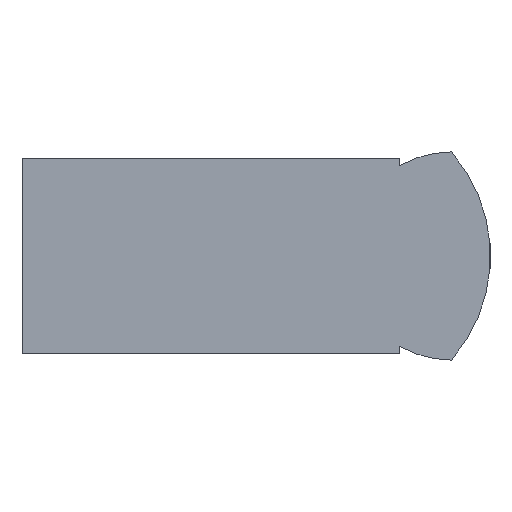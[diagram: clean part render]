
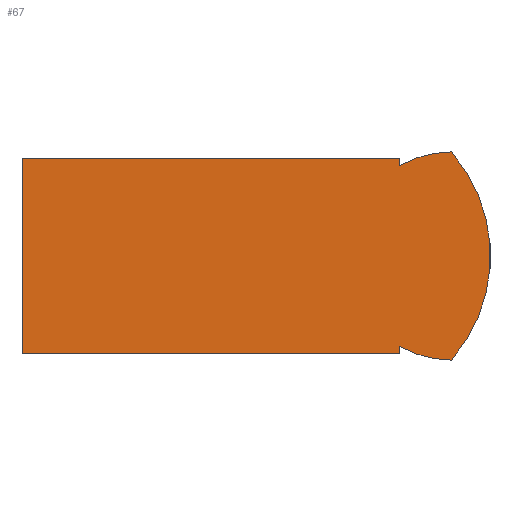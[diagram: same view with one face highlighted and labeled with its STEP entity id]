
A CAD part, left-side view. The second image highlights one B-rep face of the part: STEP entity #67.
In plain terms, the highlighted planar face has unit normal (-1, 0, 0).
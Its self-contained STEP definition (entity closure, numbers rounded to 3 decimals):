
#67 = ADVANCED_FACE( '', ( #140 ), #141, .F. );
#140 = FACE_OUTER_BOUND( '', #215, .T. );
#141 = PLANE( '', #216 );
#215 = EDGE_LOOP( '', ( #344, #345, #346, #347, #348, #349, #350, #351 ) );
#216 = AXIS2_PLACEMENT_3D( '', #352, #353, #354 );
#344 = ORIENTED_EDGE( '', *, *, #443, .F. );
#345 = ORIENTED_EDGE( '', *, *, #474, .T. );
#346 = ORIENTED_EDGE( '', *, *, #475, .T. );
#347 = ORIENTED_EDGE( '', *, *, #471, .F. );
#348 = ORIENTED_EDGE( '', *, *, #437, .F. );
#349 = ORIENTED_EDGE( '', *, *, #450, .T. );
#350 = ORIENTED_EDGE( '', *, *, #439, .F. );
#351 = ORIENTED_EDGE( '', *, *, #424, .F. );
#352 = CARTESIAN_POINT( '', ( -6., -28.416, 0. ) );
#353 = DIRECTION( '', ( 1., 0., 0. ) );
#354 = DIRECTION( '', ( 0., 0., -1. ) );
#424 = EDGE_CURVE( '', #491, #492, #493, .T. );
#437 = EDGE_CURVE( '', #514, #510, #516, .T. );
#439 = EDGE_CURVE( '', #492, #518, #519, .T. );
#443 = EDGE_CURVE( '', #524, #491, #526, .T. );
#450 = EDGE_CURVE( '', #514, #518, #535, .T. );
#471 = EDGE_CURVE( '', #510, #567, #568, .T. );
#474 = EDGE_CURVE( '', #524, #571, #572, .T. );
#475 = EDGE_CURVE( '', #571, #567, #573, .T. );
#491 = VERTEX_POINT( '', #590 );
#492 = VERTEX_POINT( '', #591 );
#493 = CIRCLE( '', #592, 12.167 );
#510 = VERTEX_POINT( '', #615 );
#514 = VERTEX_POINT( '', #621 );
#516 = LINE( '', #624, #625 );
#518 = VERTEX_POINT( '', #627 );
#519 = CIRCLE( '', #628, 8. );
#524 = VERTEX_POINT( '', #634 );
#526 = CIRCLE( '', #637, 8. );
#535 = LINE( '', #648, #649 );
#567 = VERTEX_POINT( '', #691 );
#568 = LINE( '', #692, #693 );
#571 = VERTEX_POINT( '', #697 );
#572 = LINE( '', #698, #699 );
#573 = LINE( '', #700, #701 );
#590 = CARTESIAN_POINT( '', ( -6., -33., 8. ) );
#591 = CARTESIAN_POINT( '', ( -6., -33., -8. ) );
#592 = AXIS2_PLACEMENT_3D( '', #722, #723, #724 );
#615 = CARTESIAN_POINT( '', ( -6., 0., -7.5 ) );
#621 = CARTESIAN_POINT( '', ( -6., -29., -7.5 ) );
#624 = CARTESIAN_POINT( '', ( -6., -29., -7.5 ) );
#625 = VECTOR( '', #737, 1000. );
#627 = CARTESIAN_POINT( '', ( -6., -29., -6.928 ) );
#628 = AXIS2_PLACEMENT_3D( '', #738, #739, #740 );
#634 = CARTESIAN_POINT( '', ( -6., -29., 6.928 ) );
#637 = AXIS2_PLACEMENT_3D( '', #746, #747, #748 );
#648 = CARTESIAN_POINT( '', ( -6., -29., -7.5 ) );
#649 = VECTOR( '', #760, 1000. );
#691 = CARTESIAN_POINT( '', ( -6., 0., 7.5 ) );
#692 = CARTESIAN_POINT( '', ( -6., 0., -7.5 ) );
#693 = VECTOR( '', #783, 1000. );
#697 = CARTESIAN_POINT( '', ( -6., -29., 7.5 ) );
#698 = CARTESIAN_POINT( '', ( -6., -29., -7.5 ) );
#699 = VECTOR( '', #785, 1000. );
#700 = CARTESIAN_POINT( '', ( -6., -29., 7.5 ) );
#701 = VECTOR( '', #786, 1000. );
#722 = CARTESIAN_POINT( '', ( -6., -23.833, 0. ) );
#723 = DIRECTION( '', ( 1., 0., 0. ) );
#724 = DIRECTION( '', ( 0., 0., -1. ) );
#737 = DIRECTION( '', ( 0., 1., 0. ) );
#738 = CARTESIAN_POINT( '', ( -6., -33., 0. ) );
#739 = DIRECTION( '', ( 1., 0., 0. ) );
#740 = DIRECTION( '', ( 0., 0., -1. ) );
#746 = CARTESIAN_POINT( '', ( -6., -33., 0. ) );
#747 = DIRECTION( '', ( 1., 0., 0. ) );
#748 = DIRECTION( '', ( 0., 0., -1. ) );
#760 = DIRECTION( '', ( 0., 0., 1. ) );
#783 = DIRECTION( '', ( 0., 0., 1. ) );
#785 = DIRECTION( '', ( 0., 0., 1. ) );
#786 = DIRECTION( '', ( 0., 1., 0. ) );
